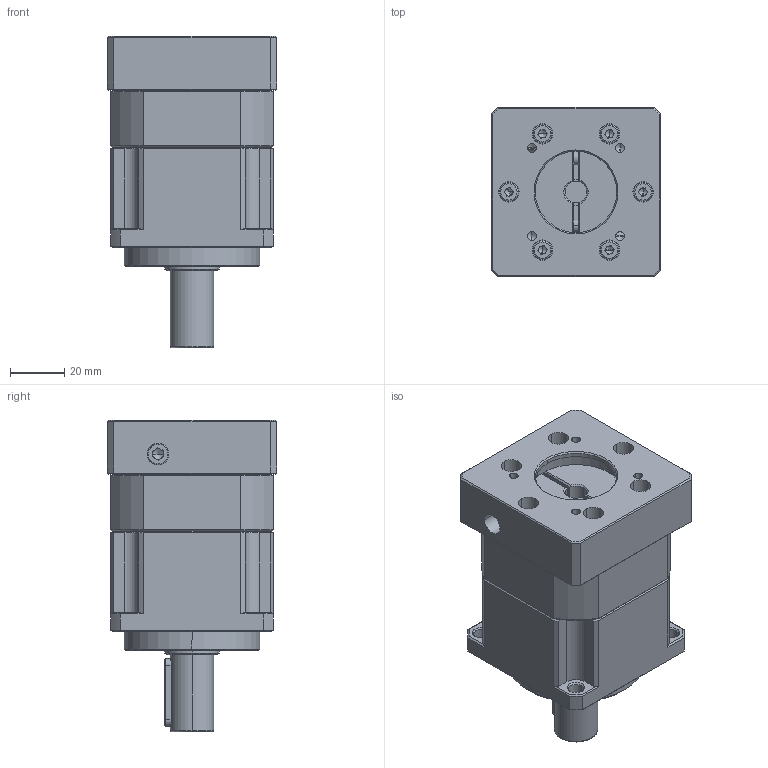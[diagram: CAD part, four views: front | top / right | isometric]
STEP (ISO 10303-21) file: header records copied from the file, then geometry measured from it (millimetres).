
FILE_DESCRIPTION (( 'STEP AP214' ), '1' );
FILE_NAME ('ZPB060-D16-L1-P1-8-30-46-M4.step', '2024-04-23T16:10:20', ( 'Windows 蚚誧' ), ( 'Organization' ), 'SwSTEP 2.0', 'SolidWorks 2016', '' );
FILE_SCHEMA (( 'AUTOMOTIVE_DESIGN' ));
Length unit declared in the file: millimetre
Products named in the file (1): ZPB060-D16-L1-P1-8-30-46-M4
Bounding box: 62.5 x 62.5 x 115 mm (x, y, z)
Volume: 250024 mm3; surface area: 73572.5 mm2
Topology: 16 solids, 17 shells, 2045 faces, 5758 edges, 3723 vertices
Faces by surface type: plane 1048, bspline 373, cylinder 303, cone 179, torus 96, sphere 46
Entity records: 107516 total; most frequent: CARTESIAN_POINT 35570, ORIENTED_EDGE 11176, DIRECTION 8709, EDGE_CURVE 5588, VERTEX_POINT 3654, VECTOR 3347, LINE 3347, AXIS2_PLACEMENT_3D 2681
